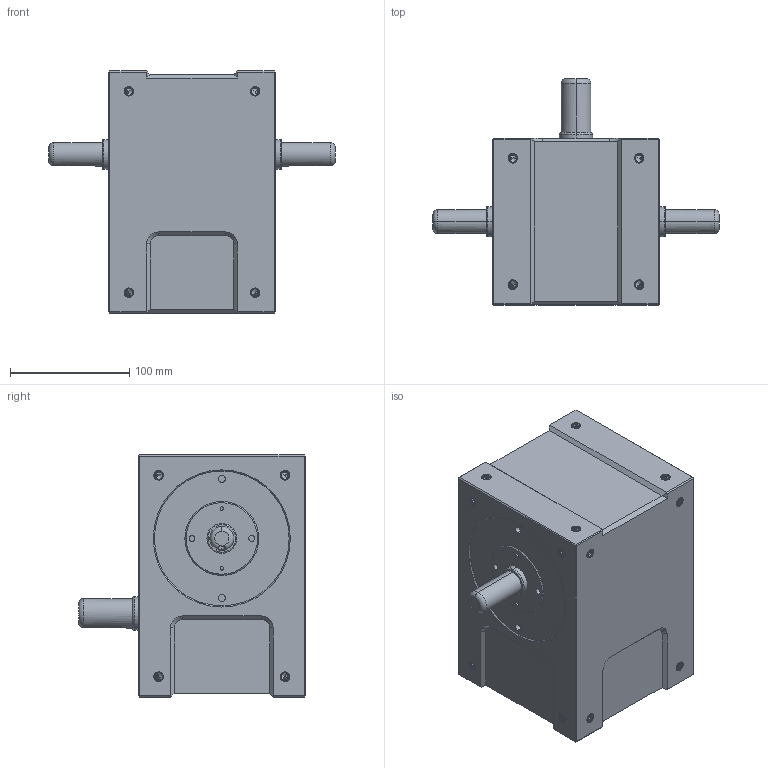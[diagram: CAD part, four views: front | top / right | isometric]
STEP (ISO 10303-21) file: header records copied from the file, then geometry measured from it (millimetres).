
FILE_DESCRIPTION (( 'STEP AP214' ), '1' );
FILE_NAME ('- 63DS.STEP', '2017-10-18T03:38:56', ( '' ), ( '' ), 'SwSTEP 2.0', 'SolidWorks 2017', '' );
FILE_SCHEMA (( 'AUTOMOTIVE_DESIGN' ));
Length unit declared in the file: millimetre
Products named in the file (1): - 63DS
Bounding box: 240 x 190 x 203 mm (x, y, z)
Volume: 3866902.6 mm3; surface area: 181341.7 mm2
Topology: 3 solids, 3 shells, 774 faces, 2194 edges, 1406 vertices
Faces by surface type: cylinder 389, cone 136, plane 124, bspline 113, torus 12
Entity records: 72206 total; most frequent: CARTESIAN_POINT 55500, ORIENTED_EDGE 4388, DIRECTION 2541, EDGE_CURVE 2194, VERTEX_POINT 1406, AXIS2_PLACEMENT_3D 946, EDGE_LOOP 818, FACE_OUTER_BOUND 774
